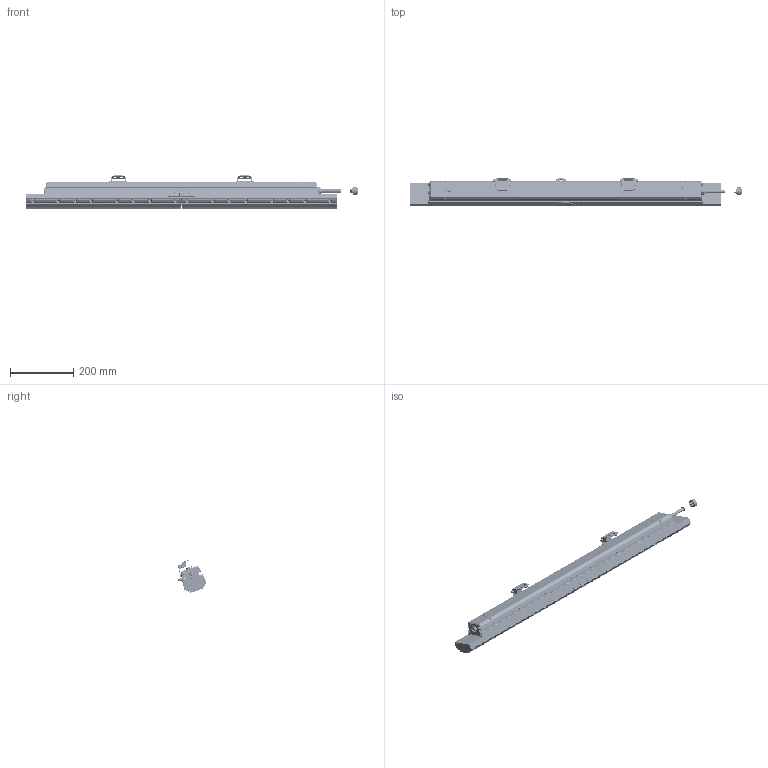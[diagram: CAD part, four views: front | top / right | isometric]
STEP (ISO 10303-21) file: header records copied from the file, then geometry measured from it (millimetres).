
FILE_DESCRIPTION(('HOOPS Exchange Step'),'2;1');
FILE_NAME('E:\cdb\hoops_acs\acs\9788\78517\017781-8-Light Fixture.step','2024-06-28T15:15:00+02:00',('caddok'),('Unknown organisation'),'HOOPS Exchange 2024.0','HOOPS Exchange','Unknown authorisation');
FILE_SCHEMA( ('AP242_MANAGED_MODEL_BASED_3D_ENGINEERING_MIM_LF {1 0 10303 442 1 1 4 }') );
Length unit declared in the file: millimetre
Products named in the file (2): Standard; 017781-8-Light Fixture
Assembly tree (1 placements, depth 2):
  017781-8-Light Fixture
    Standard
Bounding box: 1051.15 x 89.76 x 104.7 mm (x, y, z)
Topology: 87 solids, 87 shells, 9329 faces, 24209 edges, 15500 vertices
Faces by surface type: plane 4130, bspline 2853, cylinder 1774, extrusion 256, cone 242, torus 42, sphere 32
Full cylindrical faces by diameter (mm): 2 x4, 2.241 x6, 2.5 x28, 3 x16, 3.2 x10, 3.271 x6, 3.3 x60, 3.5 x4, 4 x44, 4.2 x14, 4.3 x1, 5 x11, 5.4 x14, 5.5 x12, 5.7 x1, 6 x4, 6.476 x2, 6.5 x1, 7 x42, 7.5 x10, 8 x1, 8.5 x10, 9 x1, 9.224 x1, 10 x2, 10.5 x1, 11 x1, 12 x5, 13 x1, 14 x1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
Entity records: 445016 total; most frequent: CARTESIAN_POINT 237797, ORIENTED_EDGE 48198, DIRECTION 33502, EDGE_CURVE 24099, VERTEX_POINT 15492, VECTOR 13090, LINE 12834, AXIS2_PLACEMENT_3D 10206
